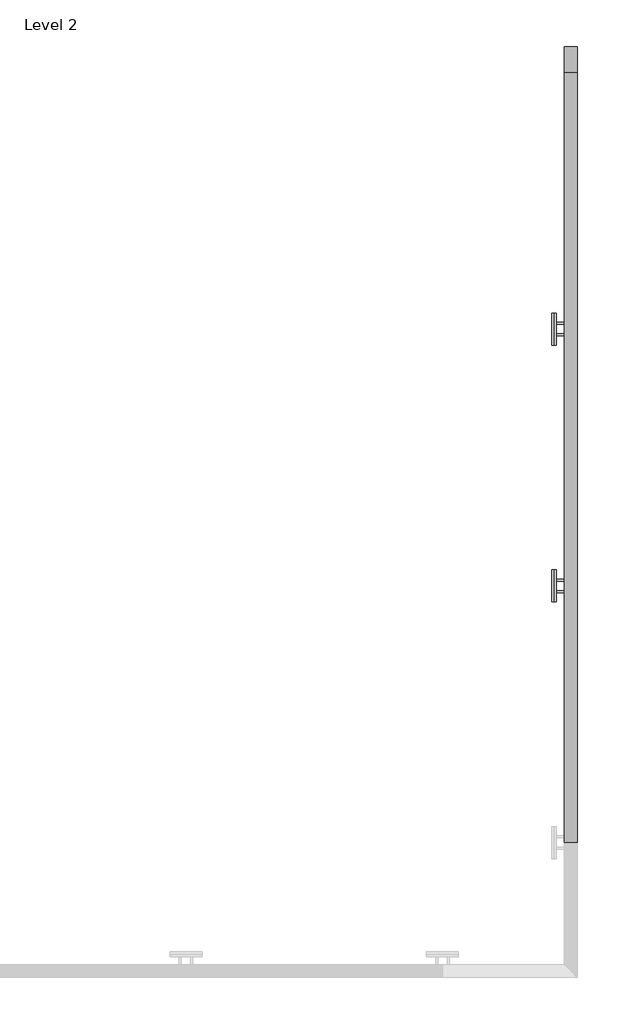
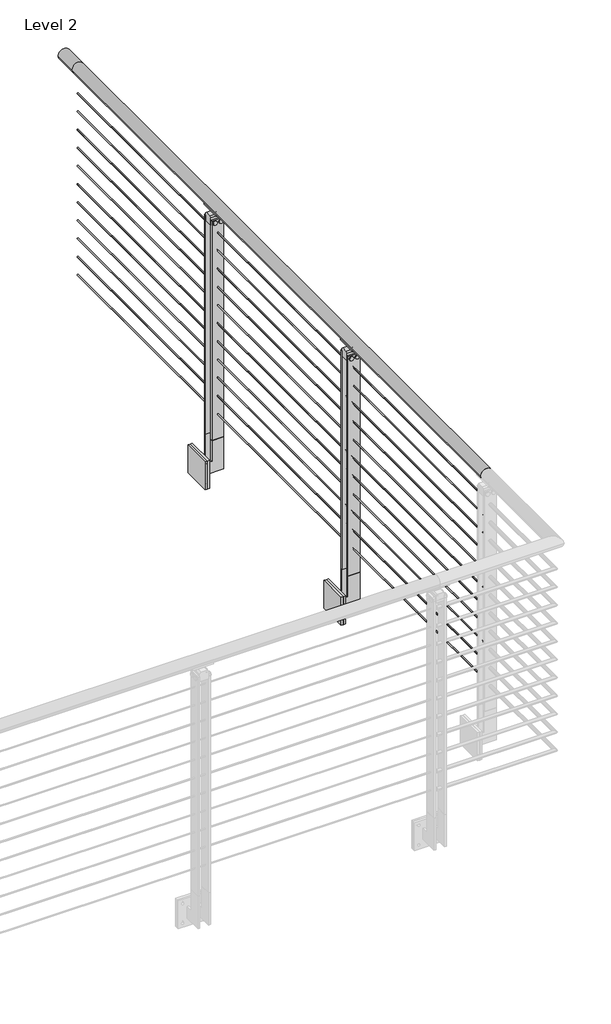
# One storey, part 8 of 31: 1 railing.
"""IFC4 building model written with IfcOpenShell, lengths in millimetres."""

from ifc_helpers import new_model, si_unit, point, frame, frame_2d, origin, place, context, project, spatial, polyline, circle_curve, trimmed, segment, composite_curve, outline, extrude, element, save
from ifc_brep_helpers import plane_surface, cylinder_surface, revolved_surface, advanced_brep

model = new_model("IFC4")

# Units and contexts
model_context = context("Model", 3, world=origin())
ifc_project = project(units=[si_unit("LENGTHUNIT", "METRE", prefix="MILLI")], contexts=[model_context])

# Site, building, storey
site = spatial("IfcSite", under=ifc_project)
building = spatial("IfcBuilding", under=site)
storey = spatial("IfcBuildingStorey", under=building, Name="Level 2", Elevation=3048.0)

# Railing
placement = place(None, origin())
element("IfcRailing", 1, ObjectType="VIVA-BLADE-Cable-Fascia Mount-Straight", at=placement, inside=storey, context=model_context, shape_type="SolidModel", body=[
    advanced_brep(
    [(-3671.3664794, -48663.0426165, 4102.1), (-3620.5664794, -48663.0426165, 4102.1), (-3671.3664794, -48764.6426165, 4102.1), (-3620.5664794, -48764.6426165, 4102.1), (-3671.3664794, -51812.6426165, 4102.1), (-3620.5664794, -51812.6426165, 4102.1)],
    [
        (0, 1, circle_curve(frame((-3645.9664794, -48663.0426165, 4102.1), z_axis=(0.0, 1.0, 0.0), x_axis=(1.0, 0.0, 0.0)), 25.4)),
        (1, 0, circle_curve(frame((-3645.9664794, -48663.0426165, 4102.1), z_axis=(0.0, 1.0, 0.0), x_axis=(1.0, 0.0, 0.0)), 25.4)),
        (0, 2),
        (2, 3, circle_curve(frame((-3645.9664794, -48764.6426165, 4102.1), z_axis=(0.0, 1.0, 0.0), x_axis=(1.0, 0.0, 0.0)), 25.4)),
        (3, 1),
        (3, 2, circle_curve(frame((-3645.9664794, -48764.6426165, 4102.1), z_axis=(0.0, 1.0, 0.0), x_axis=(1.0, 0.0, 0.0)), 25.4)),
        (4, 5, circle_curve(frame((-3645.9664794, -51812.6426165, 4102.1), z_axis=(0.0, -1.0, 0.0), x_axis=(1.0, 0.0, 0.0)), 25.4)),
        (5, 4, circle_curve(frame((-3645.9664794, -51812.6426165, 4102.1), z_axis=(0.0, -1.0, 0.0), x_axis=(1.0, 0.0, 0.0)), 25.4)),
        (2, 4),
        (5, 3),
    ],
    [
        plane_surface(frame((-3645.9664794, -48663.0426165, 4127.5), z_axis=(0.0, 1.0, 0.0), x_axis=(0.0, 0.0, -1.0))),
        cylinder_surface(frame((-3645.9664794, -48663.0426165, 4102.1), z_axis=(0.0, 1.0, 0.0), x_axis=(1.0, 0.0, 0.0)), 25.4),
        plane_surface(frame((-3645.9664794, -51812.6426165, 4127.5), z_axis=(0.0, -1.0, 0.0), x_axis=(0.0, 0.0, -1.0))),
        cylinder_surface(frame((-3645.9664794, -48764.6426165, 4102.1), z_axis=(0.0, 1.0, 0.0), x_axis=(1.0, 0.0, 0.0)), 25.4),
    ],
    [
        (0, [[1, 2]]),
        (1, [[-1, 3, 4, 5]]),
        (1, [[-2, -5, 6, -3]]),
        (2, [[7, 8]]),
        (3, [[-4, 9, -8, 10]]),
        (3, [[-6, -10, -7, -9]]),
    ],
),
    extrude(outline(composite_curve([segment(trimmed(circle_curve(frame_2d((3985.4124, -3645.9664794)), 2.3876), [point((3985.4124, -3648.3540794))], [point((3985.4124, -3643.5788794))], False, "CARTESIAN"), True, "CONTINUOUS"), segment(trimmed(circle_curve(frame_2d((3985.4124, -3645.9664794)), 2.3876), [point((3985.4124, -3643.5788794))], [point((3985.4124, -3648.3540794))], False, "CARTESIAN"), True, "CONTINUOUS")], self_intersect=False)), frame((0.0, -51812.6426165, 0.0), z_axis=(0.0, 1.0, 0.0), x_axis=(0.0, 0.0, 1.0)), (0.0, 0.0, 1.0), 3048.0),
    extrude(outline(composite_curve([segment(trimmed(circle_curve(frame_2d((3902.8624, -3645.9664794)), 2.3876), [point((3902.8624, -3648.3540794))], [point((3902.8624, -3643.5788794))], False, "CARTESIAN"), True, "CONTINUOUS"), segment(trimmed(circle_curve(frame_2d((3902.8624, -3645.9664794)), 2.3876), [point((3902.8624, -3643.5788794))], [point((3902.8624, -3648.3540794))], False, "CARTESIAN"), True, "CONTINUOUS")], self_intersect=False)), frame((0.0, -51812.6426165, 0.0), z_axis=(0.0, 1.0, 0.0), x_axis=(0.0, 0.0, 1.0)), (0.0, 0.0, 1.0), 3048.0),
    extrude(outline(composite_curve([segment(trimmed(circle_curve(frame_2d((3820.3124, -3645.9664794)), 2.3876), [point((3820.3124, -3648.3540794))], [point((3820.3124, -3643.5788794))], False, "CARTESIAN"), True, "CONTINUOUS"), segment(trimmed(circle_curve(frame_2d((3820.3124, -3645.9664794)), 2.3876), [point((3820.3124, -3643.5788794))], [point((3820.3124, -3648.3540794))], False, "CARTESIAN"), True, "CONTINUOUS")], self_intersect=False)), frame((0.0, -51812.6426165, 0.0), z_axis=(0.0, 1.0, 0.0), x_axis=(0.0, 0.0, 1.0)), (0.0, 0.0, 1.0), 3048.0),
    extrude(outline(composite_curve([segment(trimmed(circle_curve(frame_2d((3737.7624, -3645.9664794)), 2.3876), [point((3737.7624, -3648.3540794))], [point((3737.7624, -3643.5788794))], False, "CARTESIAN"), True, "CONTINUOUS"), segment(trimmed(circle_curve(frame_2d((3737.7624, -3645.9664794)), 2.3876), [point((3737.7624, -3643.5788794))], [point((3737.7624, -3648.3540794))], False, "CARTESIAN"), True, "CONTINUOUS")], self_intersect=False)), frame((0.0, -51812.6426165, 0.0), z_axis=(0.0, 1.0, 0.0), x_axis=(0.0, 0.0, 1.0)), (0.0, 0.0, 1.0), 3048.0),
    extrude(outline(composite_curve([segment(trimmed(circle_curve(frame_2d((3655.2124, -3645.9664794)), 2.3876), [point((3655.2124, -3648.3540794))], [point((3655.2124, -3643.5788794))], False, "CARTESIAN"), True, "CONTINUOUS"), segment(trimmed(circle_curve(frame_2d((3655.2124, -3645.9664794)), 2.3876), [point((3655.2124, -3643.5788794))], [point((3655.2124, -3648.3540794))], False, "CARTESIAN"), True, "CONTINUOUS")], self_intersect=False)), frame((0.0, -51812.6426165, 0.0), z_axis=(0.0, 1.0, 0.0), x_axis=(0.0, 0.0, 1.0)), (0.0, 0.0, 1.0), 3048.0),
    extrude(outline(composite_curve([segment(trimmed(circle_curve(frame_2d((3572.6624, -3645.9664794)), 2.3876), [point((3572.6624, -3648.3540794))], [point((3572.6624, -3643.5788794))], False, "CARTESIAN"), True, "CONTINUOUS"), segment(trimmed(circle_curve(frame_2d((3572.6624, -3645.9664794)), 2.3876), [point((3572.6624, -3643.5788794))], [point((3572.6624, -3648.3540794))], False, "CARTESIAN"), True, "CONTINUOUS")], self_intersect=False)), frame((0.0, -51812.6426165, 0.0), z_axis=(0.0, 1.0, 0.0), x_axis=(0.0, 0.0, 1.0)), (0.0, 0.0, 1.0), 3048.0),
    extrude(outline(composite_curve([segment(trimmed(circle_curve(frame_2d((3490.1124, -3645.9664794)), 2.3876), [point((3490.1124, -3648.3540794))], [point((3490.1124, -3643.5788794))], False, "CARTESIAN"), True, "CONTINUOUS"), segment(trimmed(circle_curve(frame_2d((3490.1124, -3645.9664794)), 2.3876), [point((3490.1124, -3643.5788794))], [point((3490.1124, -3648.3540794))], False, "CARTESIAN"), True, "CONTINUOUS")], self_intersect=False)), frame((0.0, -51812.6426165, 0.0), z_axis=(0.0, 1.0, 0.0), x_axis=(0.0, 0.0, 1.0)), (0.0, 0.0, 1.0), 3048.0),
    extrude(outline(composite_curve([segment(trimmed(circle_curve(frame_2d((3407.5624, -3645.9664794)), 2.3876), [point((3407.5624, -3648.3540794))], [point((3407.5624, -3643.5788794))], False, "CARTESIAN"), True, "CONTINUOUS"), segment(trimmed(circle_curve(frame_2d((3407.5624, -3645.9664794)), 2.3876), [point((3407.5624, -3643.5788794))], [point((3407.5624, -3648.3540794))], False, "CARTESIAN"), True, "CONTINUOUS")], self_intersect=False)), frame((0.0, -51812.6426165, 0.0), z_axis=(0.0, 1.0, 0.0), x_axis=(0.0, 0.0, 1.0)), (0.0, 0.0, 1.0), 3048.0),
    extrude(outline(composite_curve([segment(trimmed(circle_curve(frame_2d((3325.0124, -3645.9664794)), 2.3876), [point((3325.0124, -3648.3540794))], [point((3325.0124, -3643.5788794))], False, "CARTESIAN"), True, "CONTINUOUS"), segment(trimmed(circle_curve(frame_2d((3325.0124, -3645.9664794)), 2.3876), [point((3325.0124, -3643.5788794))], [point((3325.0124, -3648.3540794))], False, "CARTESIAN"), True, "CONTINUOUS")], self_intersect=False)), frame((0.0, -51812.6426165, 0.0), z_axis=(0.0, 1.0, 0.0), x_axis=(0.0, 0.0, 1.0)), (0.0, 0.0, 1.0), 3048.0),
    extrude(outline(composite_curve([segment(trimmed(circle_curve(frame_2d((3242.4624, -3645.9664794)), 2.3876), [point((3242.4624, -3648.3540794))], [point((3242.4624, -3643.5788794))], False, "CARTESIAN"), True, "CONTINUOUS"), segment(trimmed(circle_curve(frame_2d((3242.4624, -3645.9664794)), 2.3876), [point((3242.4624, -3643.5788794))], [point((3242.4624, -3648.3540794))], False, "CARTESIAN"), True, "CONTINUOUS")], self_intersect=False)), frame((0.0, -51812.6426165, 0.0), z_axis=(0.0, 1.0, 0.0), x_axis=(0.0, 0.0, 1.0)), (0.0, 0.0, 1.0), 3048.0),
    extrude(outline(composite_curve([segment(trimmed(circle_curve(frame_2d((3159.9124, -3645.9664794)), 2.3876), [point((3159.9124, -3648.3540794))], [point((3159.9124, -3643.5788794))], False, "CARTESIAN"), True, "CONTINUOUS"), segment(trimmed(circle_curve(frame_2d((3159.9124, -3645.9664794)), 2.3876), [point((3159.9124, -3643.5788794))], [point((3159.9124, -3648.3540794))], False, "CARTESIAN"), True, "CONTINUOUS")], self_intersect=False)), frame((0.0, -51812.6426165, 0.0), z_axis=(0.0, 1.0, 0.0), x_axis=(0.0, 0.0, 1.0)), (0.0, 0.0, 1.0), 3048.0),
    extrude(outline(polyline([(2901.95, -3620.5639514), (3048.0, -3620.5639514), (3048.0, -3671.3639514), (2952.75, -3671.3639514), (2952.75, -3703.1166851), (2901.95, -3703.1166851), (2901.95, -3620.5639514)])), frame((0.0, -50777.5926165, 0.0), z_axis=(0.0, 1.0, 0.0), x_axis=(0.0, 0.0, 1.0)), (0.0, 0.0, 1.0), 8.0248357),
    extrude(outline(polyline([(3048.0, -3671.3639514), (2952.75, -3671.3639514), (2952.75, -3703.1166851), (2901.95, -3703.1166851), (2901.95, -3620.5639514), (3048.0, -3620.5639514), (3048.0, -3671.3639514)])), frame((0.0, -50823.6935785, 0.0), z_axis=(0.0, 1.0, 0.0), x_axis=(0.0, 0.0, 1.0)), (0.0, 0.0, 1.0), 8.001),
    advanced_brep(
    [(-3658.726603, -50841.8800165, 4080.0967655), (-3662.5625004, -50841.8800165, 4075.707533), (-3631.0456082, -50841.8800165, 4075.1267745), (-3633.8545385, -50841.8800165, 4079.9535285), (-3658.726603, -50751.4052165, 4080.0967655), (-3633.7675664, -50751.4052165, 4080.0018447), (-3630.9318148, -50751.4052165, 4075.1893964), (-3662.5625004, -50751.4052165, 4075.707533)],
    [
        (0, 1, circle_curve(frame((-3660.2741607, -50841.8800165, 4077.5784521), z_axis=(0.0, -1.0, 0.0), x_axis=(-1.0, 0.0, 0.0)), 2.9558141)),
        (1, 2, circle_curve(frame((-3646.2962632, -50841.8800165, 4102.9742164), z_axis=(0.0, -1.0, 0.0), x_axis=(-1.0, 0.0, 0.0)), 31.75)),
        (2, 3, circle_curve(frame((-3632.5229132, -50841.8800165, 4077.4993599), z_axis=(0.0, -1.0, 0.0), x_axis=(-1.0, 0.0, 0.0)), 2.7949225)),
        (3, 0, circle_curve(frame((-3646.1628001, -50841.8800165, 4102.2115898), z_axis=(0.0, 1.0, 0.0), x_axis=(-1.0, 0.0, 0.0)), 25.4345159)),
        (4, 5, circle_curve(frame((-3646.1628001, -50751.4052165, 4102.2115898), z_axis=(0.0, -1.0, 0.0), x_axis=(-1.0, 0.0, 0.0)), 25.4345159)),
        (5, 6, circle_curve(frame((-3632.5229132, -50751.4052165, 4077.4993599), z_axis=(0.0, 1.0, 0.0), x_axis=(-1.0, 0.0, 0.0)), 2.7949225)),
        (6, 7, circle_curve(frame((-3646.2962632, -50751.4052165, 4102.9742164), z_axis=(0.0, 1.0, 0.0), x_axis=(-1.0, 0.0, 0.0)), 31.75)),
        (7, 4, circle_curve(frame((-3660.2741607, -50751.4052165, 4077.5784521), z_axis=(0.0, 1.0, 0.0), x_axis=(-1.0, 0.0, 0.0)), 2.9558141)),
        (3, 5),
        (4, 0),
        (2, 6),
        (1, 7),
    ],
    [
        plane_surface(frame((-3671.597316, -50841.8800165, 4102.2115898), z_axis=(0.0, -1.0, 0.0), x_axis=(0.0, 0.0, -1.0))),
        plane_surface(frame((-3671.597316, -50751.4052165, 4102.2115898), z_axis=(0.0, 1.0, 0.0), x_axis=(0.0, 0.0, 1.0))),
        revolved_surface(polyline([(-3671.597316, -50751.4052165, 4102.2115898), (-3671.597316, -50841.8800165, 4102.2115898)]), (-3646.1628001, -50751.4052165, 4102.2115898), (0.0, 1.0, 0.0)),
        cylinder_surface(frame((-3632.5229132, -50751.4052165, 4077.4993599), z_axis=(0.0, -1.0, 0.0), x_axis=(-1.0, 0.0, 0.0)), 2.7949225),
        cylinder_surface(frame((-3646.2962632, -50751.4052165, 4102.9742164), z_axis=(0.0, -1.0, 0.0), x_axis=(-1.0, 0.0, 0.0)), 31.75),
        cylinder_surface(frame((-3660.2741607, -50751.4052165, 4077.5784521), z_axis=(0.0, -1.0, 0.0), x_axis=(-1.0, 0.0, 0.0)), 2.9558141),
    ],
    [
        (0, [[1, 2, 3, 4]]),
        (1, [[5, 6, 7, 8]]),
        (2, [[9, -5, 10, -4]]),
        (3, [[11, -6, -9, -3]]),
        (4, [[12, -7, -11, -2]]),
        (5, [[-10, -8, -12, -1]]),
    ],
),
    extrude(outline(polyline([(-3722.1666851, -50860.1306797), (-3722.1666851, -50733.1306797), (-3712.6416851, -50733.1306797), (-3712.6416851, -50860.1306797), (-3722.1666851, -50860.1306797)])), frame((0.0, 0.0, 2863.85), z_axis=(0.0, 0.0, 1.0), x_axis=(1.0, 0.0, 0.0)), (0.0, 0.0, 1.0), 127.0),
    extrude(outline(composite_curve([segment(trimmed(circle_curve(frame_2d((-50823.7105314, 4062.4125)), 14.3679149), [point((-50809.3426165, 4062.4125))], [point((-50823.7105314, 4076.7804149))], True, "CARTESIAN"), True, "CONTINUOUS"), segment(polyline([(-50823.7105314, 4076.7804149), (-50769.5747017, 4076.7804149)]), True, "CONTINUOUS"), segment(trimmed(circle_curve(frame_2d((-50769.5747017, 4062.4125)), 14.3679149), [point((-50769.5747017, 4076.7804149))], [point((-50783.9426165, 4062.4125))], True, "CARTESIAN"), True, "CONTINUOUS"), segment(polyline([(-50783.9426165, 4062.4125), (-50809.3426165, 4062.4125)]), True, "CONTINUOUS")], self_intersect=False)), frame((-3648.5064794, 0.0, 0.0), z_axis=(1.0, 0.0, 0.0), x_axis=(0.0, 1.0, 0.0)), (0.0, 0.0, 1.0), 5.08),
    extrude(outline(polyline([(-3671.366276, -50769.5677809), (-3620.5639514, -50769.5677809), (-3620.5639514, -50777.5926165), (-3671.366276, -50777.5926165), (-3671.366276, -50769.5677809)])), frame((0.0, 0.0, 3048.0), z_axis=(0.0, 0.0, 1.0), x_axis=(1.0, 0.0, 0.0)), (0.0, 0.0, 1.0), 996.95),
    extrude(outline(polyline([(-50733.1306797, 2863.85), (-50860.1306797, 2863.85), (-50860.1306797, 2990.85), (-50733.1306797, 2990.85), (-50733.1306797, 2863.85)]), holes=[composite_curve([segment(trimmed(circle_curve(frame_2d((-50752.1806797, 2971.8)), 4.7068371), [point((-50756.8875168, 2971.8))], [point((-50747.4738426, 2971.8))], True, "CARTESIAN"), True, "CONTINUOUS"), segment(trimmed(circle_curve(frame_2d((-50752.1806797, 2971.8)), 4.7068371), [point((-50747.4738426, 2971.8))], [point((-50756.8875168, 2971.8))], True, "CARTESIAN"), True, "CONTINUOUS")], self_intersect=False), composite_curve([segment(trimmed(circle_curve(frame_2d((-50841.0806797, 2971.8)), 4.7068371), [point((-50845.7875168, 2971.8))], [point((-50836.3738426, 2971.8))], True, "CARTESIAN"), True, "CONTINUOUS"), segment(trimmed(circle_curve(frame_2d((-50841.0806797, 2971.8)), 4.7068371), [point((-50836.3738426, 2971.8))], [point((-50845.7875168, 2971.8))], True, "CARTESIAN"), True, "CONTINUOUS")], self_intersect=False), composite_curve([segment(trimmed(circle_curve(frame_2d((-50841.0806797, 2882.9)), 4.7068371), [point((-50845.7875168, 2882.9))], [point((-50836.3738426, 2882.9))], True, "CARTESIAN"), True, "CONTINUOUS"), segment(trimmed(circle_curve(frame_2d((-50841.0806797, 2882.9)), 4.7068371), [point((-50836.3738426, 2882.9))], [point((-50845.7875168, 2882.9))], True, "CARTESIAN"), True, "CONTINUOUS")], self_intersect=False), composite_curve([segment(trimmed(circle_curve(frame_2d((-50752.1806797, 2882.9)), 4.7068371), [point((-50756.8875168, 2882.9))], [point((-50747.4738426, 2882.9))], True, "CARTESIAN"), True, "CONTINUOUS"), segment(trimmed(circle_curve(frame_2d((-50752.1806797, 2882.9)), 4.7068371), [point((-50747.4738426, 2882.9))], [point((-50756.8875168, 2882.9))], True, "CARTESIAN"), True, "CONTINUOUS")], self_intersect=False)]), frame((-3712.6416851, 0.0, 0.0), z_axis=(1.0, 0.0, 0.0), x_axis=(0.0, 1.0, 0.0)), (0.0, 0.0, 1.0), 9.525),
    extrude(outline(composite_curve([segment(trimmed(circle_curve(frame_2d((4034.0416929, -3633.2640024)), 8.89), [point((4034.0416929, -3624.3740024))], [point((4034.0416929, -3642.1540024))], False, "CARTESIAN"), True, "CONTINUOUS"), segment(trimmed(circle_curve(frame_2d((4034.0416929, -3633.2640024)), 8.89), [point((4034.0416929, -3642.1540024))], [point((4034.0416929, -3624.3740024))], False, "CARTESIAN"), True, "CONTINUOUS")], self_intersect=False)), frame((0.0, -50828.3806797, 0.0), z_axis=(0.0, 1.0, 0.0), x_axis=(0.0, 0.0, 1.0)), (0.0, 0.0, 1.0), 63.4880631),
    extrude(outline(composite_curve([segment(trimmed(circle_curve(frame_2d((4034.0416929, -3658.6639004)), 8.89), [point((4034.0416929, -3649.7739004))], [point((4034.0416929, -3667.5539004))], False, "CARTESIAN"), True, "CONTINUOUS"), segment(trimmed(circle_curve(frame_2d((4034.0416929, -3658.6639004)), 8.89), [point((4034.0416929, -3667.5539004))], [point((4034.0416929, -3649.7739004))], False, "CARTESIAN"), True, "CONTINUOUS")], self_intersect=False)), frame((0.0, -50828.3806797, 0.0), z_axis=(0.0, 1.0, 0.0), x_axis=(0.0, 0.0, 1.0)), (0.0, 0.0, 1.0), 63.4880631),
    extrude(outline(polyline([(-50777.5926165, 4022.7123), (-50815.6926165, 4022.7123), (-50815.6926165, 4056.0625), (-50809.3426165, 4062.4125), (-50783.9426165, 4062.4125), (-50777.5926165, 4056.0625), (-50777.5926165, 4022.7123)])), frame((-3671.3664794, 0.0, 0.0), z_axis=(1.0, 0.0, 0.0), x_axis=(0.0, 1.0, 0.0)), (0.0, 0.0, 1.0), 50.8025279),
    extrude(outline(polyline([(-3671.366276, -50815.6925785), (-3620.5639514, -50815.6925785), (-3620.5639514, -50823.6935785), (-3671.366276, -50823.6935785), (-3671.366276, -50815.6925785)])), frame((0.0, 0.0, 3048.0), z_axis=(0.0, 0.0, 1.0), x_axis=(1.0, 0.0, 0.0)), (0.0, 0.0, 1.0), 996.95),
    extrude(outline(polyline([(2901.95, -3620.5639514), (3048.0, -3620.5639514), (3048.0, -3671.3639514), (2952.75, -3671.3639514), (2952.75, -3703.1166851), (2901.95, -3703.1166851), (2901.95, -3620.5639514)])), frame((0.0, -49761.5926165, 0.0), z_axis=(0.0, 1.0, 0.0), x_axis=(0.0, 0.0, 1.0)), (0.0, 0.0, 1.0), 8.0248357),
    extrude(outline(polyline([(3048.0, -3671.3639514), (2952.75, -3671.3639514), (2952.75, -3703.1166851), (2901.95, -3703.1166851), (2901.95, -3620.5639514), (3048.0, -3620.5639514), (3048.0, -3671.3639514)])), frame((0.0, -49807.6935785, 0.0), z_axis=(0.0, 1.0, 0.0), x_axis=(0.0, 0.0, 1.0)), (0.0, 0.0, 1.0), 8.001),
    advanced_brep(
    [(-3658.726603, -49825.8800165, 4080.0967655), (-3662.5625004, -49825.8800165, 4075.707533), (-3631.0456082, -49825.8800165, 4075.1267745), (-3633.8545385, -49825.8800165, 4079.9535285), (-3658.726603, -49735.4052165, 4080.0967655), (-3633.7675664, -49735.4052165, 4080.0018447), (-3630.9318148, -49735.4052165, 4075.1893964), (-3662.5625004, -49735.4052165, 4075.707533)],
    [
        (0, 1, circle_curve(frame((-3660.2741607, -49825.8800165, 4077.5784521), z_axis=(0.0, -1.0, 0.0), x_axis=(-1.0, 0.0, 0.0)), 2.9558141)),
        (1, 2, circle_curve(frame((-3646.2962632, -49825.8800165, 4102.9742164), z_axis=(0.0, -1.0, 0.0), x_axis=(-1.0, 0.0, 0.0)), 31.75)),
        (2, 3, circle_curve(frame((-3632.5229132, -49825.8800165, 4077.4993599), z_axis=(0.0, -1.0, 0.0), x_axis=(-1.0, 0.0, 0.0)), 2.7949225)),
        (3, 0, circle_curve(frame((-3646.1628001, -49825.8800165, 4102.2115898), z_axis=(0.0, 1.0, 0.0), x_axis=(-1.0, 0.0, 0.0)), 25.4345159)),
        (4, 5, circle_curve(frame((-3646.1628001, -49735.4052165, 4102.2115898), z_axis=(0.0, -1.0, 0.0), x_axis=(-1.0, 0.0, 0.0)), 25.4345159)),
        (5, 6, circle_curve(frame((-3632.5229132, -49735.4052165, 4077.4993599), z_axis=(0.0, 1.0, 0.0), x_axis=(-1.0, 0.0, 0.0)), 2.7949225)),
        (6, 7, circle_curve(frame((-3646.2962632, -49735.4052165, 4102.9742164), z_axis=(0.0, 1.0, 0.0), x_axis=(-1.0, 0.0, 0.0)), 31.75)),
        (7, 4, circle_curve(frame((-3660.2741607, -49735.4052165, 4077.5784521), z_axis=(0.0, 1.0, 0.0), x_axis=(-1.0, 0.0, 0.0)), 2.9558141)),
        (3, 5),
        (4, 0),
        (2, 6),
        (1, 7),
    ],
    [
        plane_surface(frame((-3671.597316, -49825.8800165, 4102.2115898), z_axis=(0.0, -1.0, 0.0), x_axis=(0.0, 0.0, -1.0))),
        plane_surface(frame((-3671.597316, -49735.4052165, 4102.2115898), z_axis=(0.0, 1.0, 0.0), x_axis=(0.0, 0.0, 1.0))),
        revolved_surface(polyline([(-3671.597316, -49735.4052165, 4102.2115898), (-3671.597316, -49825.8800165, 4102.2115898)]), (-3646.1628001, -49735.4052165, 4102.2115898), (0.0, 1.0, 0.0)),
        cylinder_surface(frame((-3632.5229132, -49735.4052165, 4077.4993599), z_axis=(0.0, -1.0, 0.0), x_axis=(-1.0, 0.0, 0.0)), 2.7949225),
        cylinder_surface(frame((-3646.2962632, -49735.4052165, 4102.9742164), z_axis=(0.0, -1.0, 0.0), x_axis=(-1.0, 0.0, 0.0)), 31.75),
        cylinder_surface(frame((-3660.2741607, -49735.4052165, 4077.5784521), z_axis=(0.0, -1.0, 0.0), x_axis=(-1.0, 0.0, 0.0)), 2.9558141),
    ],
    [
        (0, [[1, 2, 3, 4]]),
        (1, [[5, 6, 7, 8]]),
        (2, [[9, -5, 10, -4]]),
        (3, [[11, -6, -9, -3]]),
        (4, [[12, -7, -11, -2]]),
        (5, [[-10, -8, -12, -1]]),
    ],
),
    extrude(outline(polyline([(-3722.1666851, -49844.1306797), (-3722.1666851, -49717.1306797), (-3712.6416851, -49717.1306797), (-3712.6416851, -49844.1306797), (-3722.1666851, -49844.1306797)])), frame((0.0, 0.0, 2863.85), z_axis=(0.0, 0.0, 1.0), x_axis=(1.0, 0.0, 0.0)), (0.0, 0.0, 1.0), 127.0),
    extrude(outline(composite_curve([segment(trimmed(circle_curve(frame_2d((-49807.7105314, 4062.4125)), 14.3679149), [point((-49793.3426165, 4062.4125))], [point((-49807.7105314, 4076.7804149))], True, "CARTESIAN"), True, "CONTINUOUS"), segment(polyline([(-49807.7105314, 4076.7804149), (-49753.5747017, 4076.7804149)]), True, "CONTINUOUS"), segment(trimmed(circle_curve(frame_2d((-49753.5747017, 4062.4125)), 14.3679149), [point((-49753.5747017, 4076.7804149))], [point((-49767.9426165, 4062.4125))], True, "CARTESIAN"), True, "CONTINUOUS"), segment(polyline([(-49767.9426165, 4062.4125), (-49793.3426165, 4062.4125)]), True, "CONTINUOUS")], self_intersect=False)), frame((-3648.5064794, 0.0, 0.0), z_axis=(1.0, 0.0, 0.0), x_axis=(0.0, 1.0, 0.0)), (0.0, 0.0, 1.0), 5.08),
    extrude(outline(polyline([(-3671.366276, -49753.5677809), (-3620.5639514, -49753.5677809), (-3620.5639514, -49761.5926165), (-3671.366276, -49761.5926165), (-3671.366276, -49753.5677809)])), frame((0.0, 0.0, 3048.0), z_axis=(0.0, 0.0, 1.0), x_axis=(1.0, 0.0, 0.0)), (0.0, 0.0, 1.0), 996.95),
    extrude(outline(polyline([(-49717.1306797, 2863.85), (-49844.1306797, 2863.85), (-49844.1306797, 2990.85), (-49717.1306797, 2990.85), (-49717.1306797, 2863.85)]), holes=[composite_curve([segment(trimmed(circle_curve(frame_2d((-49736.1806797, 2971.8)), 4.7068371), [point((-49740.8875168, 2971.8))], [point((-49731.4738426, 2971.8))], True, "CARTESIAN"), True, "CONTINUOUS"), segment(trimmed(circle_curve(frame_2d((-49736.1806797, 2971.8)), 4.7068371), [point((-49731.4738426, 2971.8))], [point((-49740.8875168, 2971.8))], True, "CARTESIAN"), True, "CONTINUOUS")], self_intersect=False), composite_curve([segment(trimmed(circle_curve(frame_2d((-49825.0806797, 2971.8)), 4.7068371), [point((-49829.7875168, 2971.8))], [point((-49820.3738426, 2971.8))], True, "CARTESIAN"), True, "CONTINUOUS"), segment(trimmed(circle_curve(frame_2d((-49825.0806797, 2971.8)), 4.7068371), [point((-49820.3738426, 2971.8))], [point((-49829.7875168, 2971.8))], True, "CARTESIAN"), True, "CONTINUOUS")], self_intersect=False), composite_curve([segment(trimmed(circle_curve(frame_2d((-49825.0806797, 2882.9)), 4.7068371), [point((-49829.7875168, 2882.9))], [point((-49820.3738426, 2882.9))], True, "CARTESIAN"), True, "CONTINUOUS"), segment(trimmed(circle_curve(frame_2d((-49825.0806797, 2882.9)), 4.7068371), [point((-49820.3738426, 2882.9))], [point((-49829.7875168, 2882.9))], True, "CARTESIAN"), True, "CONTINUOUS")], self_intersect=False), composite_curve([segment(trimmed(circle_curve(frame_2d((-49736.1806797, 2882.9)), 4.7068371), [point((-49740.8875168, 2882.9))], [point((-49731.4738426, 2882.9))], True, "CARTESIAN"), True, "CONTINUOUS"), segment(trimmed(circle_curve(frame_2d((-49736.1806797, 2882.9)), 4.7068371), [point((-49731.4738426, 2882.9))], [point((-49740.8875168, 2882.9))], True, "CARTESIAN"), True, "CONTINUOUS")], self_intersect=False)]), frame((-3712.6416851, 0.0, 0.0), z_axis=(1.0, 0.0, 0.0), x_axis=(0.0, 1.0, 0.0)), (0.0, 0.0, 1.0), 9.525),
    extrude(outline(composite_curve([segment(trimmed(circle_curve(frame_2d((4034.0416929, -3633.2640024)), 8.89), [point((4034.0416929, -3624.3740024))], [point((4034.0416929, -3642.1540024))], False, "CARTESIAN"), True, "CONTINUOUS"), segment(trimmed(circle_curve(frame_2d((4034.0416929, -3633.2640024)), 8.89), [point((4034.0416929, -3642.1540024))], [point((4034.0416929, -3624.3740024))], False, "CARTESIAN"), True, "CONTINUOUS")], self_intersect=False)), frame((0.0, -49812.3806797, 0.0), z_axis=(0.0, 1.0, 0.0), x_axis=(0.0, 0.0, 1.0)), (0.0, 0.0, 1.0), 63.4880631),
    extrude(outline(composite_curve([segment(trimmed(circle_curve(frame_2d((4034.0416929, -3658.6639004)), 8.89), [point((4034.0416929, -3649.7739004))], [point((4034.0416929, -3667.5539004))], False, "CARTESIAN"), True, "CONTINUOUS"), segment(trimmed(circle_curve(frame_2d((4034.0416929, -3658.6639004)), 8.89), [point((4034.0416929, -3667.5539004))], [point((4034.0416929, -3649.7739004))], False, "CARTESIAN"), True, "CONTINUOUS")], self_intersect=False)), frame((0.0, -49812.3806797, 0.0), z_axis=(0.0, 1.0, 0.0), x_axis=(0.0, 0.0, 1.0)), (0.0, 0.0, 1.0), 63.4880631),
    extrude(outline(polyline([(-49761.5926165, 4022.7123), (-49799.6926165, 4022.7123), (-49799.6926165, 4056.0625), (-49793.3426165, 4062.4125), (-49767.9426165, 4062.4125), (-49761.5926165, 4056.0625), (-49761.5926165, 4022.7123)])), frame((-3671.3664794, 0.0, 0.0), z_axis=(1.0, 0.0, 0.0), x_axis=(0.0, 1.0, 0.0)), (0.0, 0.0, 1.0), 50.8025279),
    extrude(outline(polyline([(-3671.366276, -49799.6925785), (-3620.5639514, -49799.6925785), (-3620.5639514, -49807.6935785), (-3671.366276, -49807.6935785), (-3671.366276, -49799.6925785)])), frame((0.0, 0.0, 3048.0), z_axis=(0.0, 0.0, 1.0), x_axis=(1.0, 0.0, 0.0)), (0.0, 0.0, 1.0), 996.95),
])

save(model, "model.ifc")
